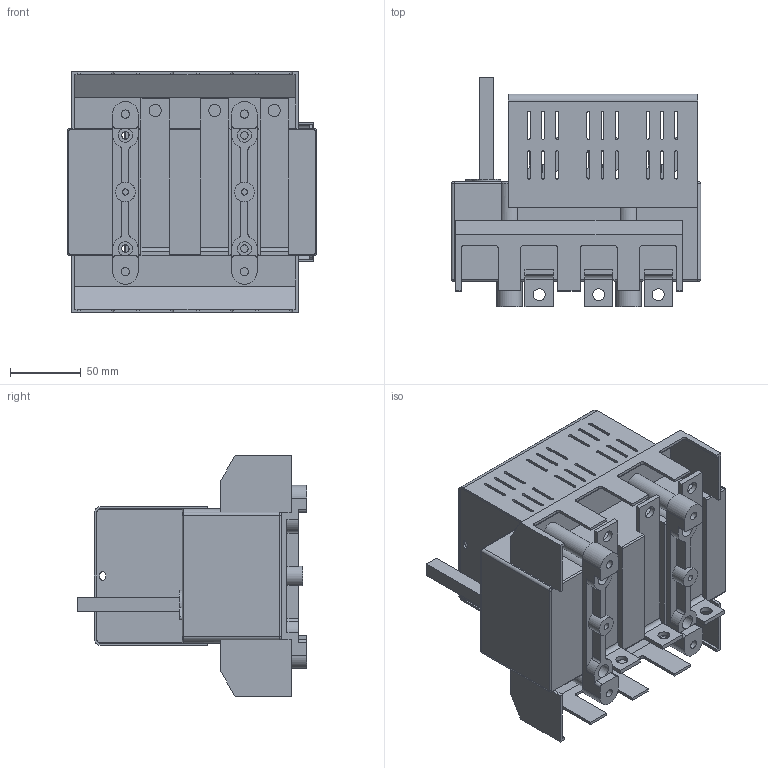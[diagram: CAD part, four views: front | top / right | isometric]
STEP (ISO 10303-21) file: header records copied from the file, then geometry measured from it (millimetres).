
FILE_DESCRIPTION(/* description */ (''),/* implementation_level */ '2;1');
FILE_NAME(/* name */ 'RA250 P3 B z oslona zaciskow.stp',/* time_stamp */ '2021-08-19T11:28:25+02:00',/* author */ (''),/* organization */ (''),/* preprocessor_version */ 'ST-DEVELOPER v18.1',/* originating_system */ 'SIEMENS PLM Software NX 1965',/* authorisation */ '');
FILE_SCHEMA (('AUTOMOTIVE_DESIGN { 1 0 10303 214 3 1 1 1 }'));
Length unit declared in the file: millimetre
Products named in the file (1): RA250 P3 B z oslona zaciskow_stp
Bounding box: 176 x 162 x 169.8 mm (x, y, z)
Volume: 1313041.4 mm3; surface area: 281505.1 mm2
Topology: 1 solids, 1 shells, 941 faces, 2724 edges, 1783 vertices
Faces by surface type: plane 596, cylinder 333, torus 7, bspline 5
Full cylindrical faces by diameter (mm): 2.7 x4, 4.3 x2, 5 x6, 5.3 x4, 5.8 x4, 8.5 x6, 10 x12, 13 x4, 14 x2
Entity records: 30832 total; most frequent: CARTESIAN_POINT 5519, ORIENTED_EDGE 5290, DIRECTION 5197, EDGE_CURVE 2645, LINE 1917, VECTOR 1917, VERTEX_POINT 1748, AXIS2_PLACEMENT_3D 1640
